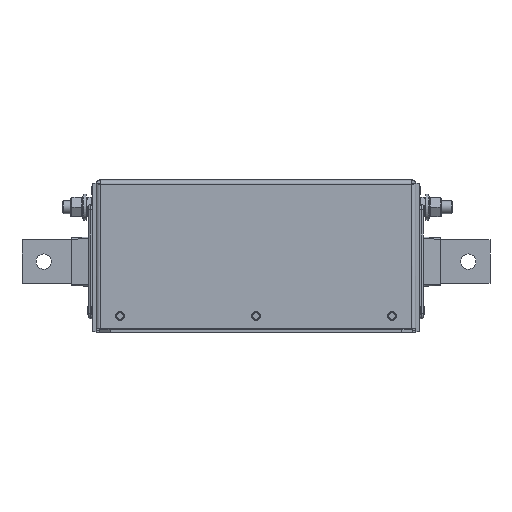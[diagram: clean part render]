
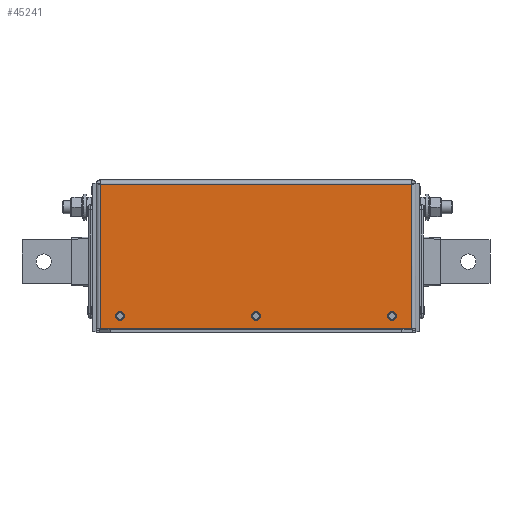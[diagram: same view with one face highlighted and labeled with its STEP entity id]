
A CAD part, front view. The second image highlights one B-rep face of the part: STEP entity #45241.
In plain terms, the highlighted planar face has unit normal (0, -1, 0).
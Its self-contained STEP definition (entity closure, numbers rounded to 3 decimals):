
#1920=CARTESIAN_POINT('',(121.,-75.0,15.0));
#1921=VERTEX_POINT('',#1920);
#1922=CARTESIAN_POINT('',(125.0,-75.0,15.0));
#1923=DIRECTION('',(0.0,1.0,0.0));
#1924=DIRECTION('',(-1.0,0.0,0.0));
#1925=AXIS2_PLACEMENT_3D('',#1922,#1923,#1924);
#1926=CIRCLE('',#1925,4.0);
#1927=EDGE_CURVE('',#1921,#1921,#1926,.T.);
#2104=CARTESIAN_POINT('',(-4.0,-75.0,15.0));
#2105=VERTEX_POINT('',#2104);
#2106=CARTESIAN_POINT('',(0.,-75.0,15.0));
#2107=DIRECTION('',(0.0,1.0,0.0));
#2108=DIRECTION('',(-1.0,0.0,0.0));
#2109=AXIS2_PLACEMENT_3D('',#2106,#2107,#2108);
#2110=CIRCLE('',#2109,4.0);
#2111=EDGE_CURVE('',#2105,#2105,#2110,.T.);
#2288=CARTESIAN_POINT('',(-129.0,-75.0,15.));
#2289=VERTEX_POINT('',#2288);
#2290=CARTESIAN_POINT('',(-125.0,-75.0,15.));
#2291=DIRECTION('',(0.0,1.0,0.0));
#2292=DIRECTION('',(-1.0,0.0,0.0));
#2293=AXIS2_PLACEMENT_3D('',#2290,#2291,#2292);
#2294=CIRCLE('',#2293,4.0);
#2295=EDGE_CURVE('',#2289,#2289,#2294,.T.);
#44651=CARTESIAN_POINT('',(-143.2,-75.,136.2));
#44652=VERTEX_POINT('',#44651);
#44960=CARTESIAN_POINT('',(-143.2,-75.,3.8));
#44961=VERTEX_POINT('',#44960);
#45002=CARTESIAN_POINT('',(-143.2,-75.,136.2));
#45003=DIRECTION('',(0.0,0.0,-1.0));
#45004=VECTOR('',#45003,132.4);
#45005=LINE('',#45002,#45004);
#45006=EDGE_CURVE('',#44652,#44961,#45005,.T.);
#45202=CARTESIAN_POINT('',(143.2,-75.,70.));
#45203=DIRECTION('',(0.0,-1.0,0.0));
#45204=DIRECTION('',(0.0,0.0,-1.0));
#45205=AXIS2_PLACEMENT_3D('',#45202,#45203,#45204);
#45206=PLANE('',#45205);
#45207=CARTESIAN_POINT('',(143.2,-75.,136.2));
#45208=VERTEX_POINT('',#45207);
#45209=CARTESIAN_POINT('',(143.2,-75.,136.2));
#45210=DIRECTION('',(-1.0,0.0,0.0));
#45211=VECTOR('',#45210,286.4);
#45212=LINE('',#45209,#45211);
#45213=EDGE_CURVE('',#45208,#44652,#45212,.T.);
#45214=ORIENTED_EDGE('',*,*,#45213,.T.);
#45215=ORIENTED_EDGE('',*,*,#45006,.T.);
#45216=CARTESIAN_POINT('',(143.2,-75.,3.8));
#45217=VERTEX_POINT('',#45216);
#45218=CARTESIAN_POINT('',(143.2,-75.0,3.8));
#45219=DIRECTION('',(-1.0,0.0,0.0));
#45220=VECTOR('',#45219,286.4);
#45221=LINE('',#45218,#45220);
#45222=EDGE_CURVE('',#45217,#44961,#45221,.T.);
#45223=ORIENTED_EDGE('',*,*,#45222,.F.);
#45224=CARTESIAN_POINT('',(143.2,-75.,136.2));
#45225=DIRECTION('',(0.0,0.0,-1.0));
#45226=VECTOR('',#45225,132.4);
#45227=LINE('',#45224,#45226);
#45228=EDGE_CURVE('',#45208,#45217,#45227,.T.);
#45229=ORIENTED_EDGE('',*,*,#45228,.F.);
#45230=EDGE_LOOP('',(#45214,#45215,#45223,#45229));
#45231=FACE_OUTER_BOUND('',#45230,.T.);
#45232=ORIENTED_EDGE('',*,*,#1927,.T.);
#45233=EDGE_LOOP('',(#45232));
#45234=FACE_BOUND('',#45233,.T.);
#45235=ORIENTED_EDGE('',*,*,#2111,.T.);
#45236=EDGE_LOOP('',(#45235));
#45237=FACE_BOUND('',#45236,.T.);
#45238=ORIENTED_EDGE('',*,*,#2295,.T.);
#45239=EDGE_LOOP('',(#45238));
#45240=FACE_BOUND('',#45239,.T.);
#45241=ADVANCED_FACE('',(#45231,#45234,#45237,#45240),#45206,.T.);
